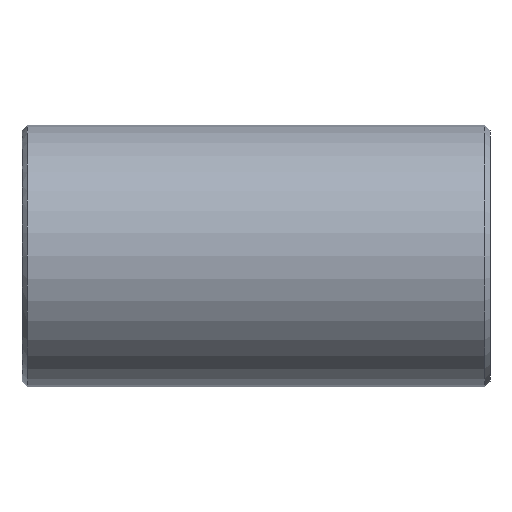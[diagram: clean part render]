
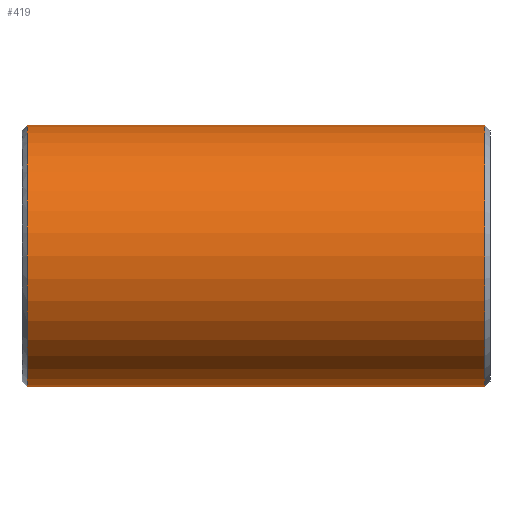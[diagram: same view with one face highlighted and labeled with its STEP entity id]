
A CAD part, front view. The second image highlights one B-rep face of the part: STEP entity #419.
In plain terms, the highlighted cylindrical face has radius 24 mm (diameter 48 mm), a partial arc.
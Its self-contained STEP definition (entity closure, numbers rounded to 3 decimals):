
#231=CARTESIAN_POINT('Vertex',(1.,0.,-24.)) ;
#238=CARTESIAN_POINT('Vertex',(1.,0.,24.)) ;
#267=CARTESIAN_POINT('Axis2P3D Location',(1.,0.,0.)) ;
#271=CARTESIAN_POINT('Vertex',(1.,-24.,0.)) ;
#274=CARTESIAN_POINT('Axis2P3D Location',(1.,0.,0.)) ;
#359=CARTESIAN_POINT('Line Origine',(86.,0.,24.)) ;
#363=CARTESIAN_POINT('Vertex',(85.,0.,24.)) ;
#377=CARTESIAN_POINT('Vertex',(85.,0.,-24.)) ;
#380=CARTESIAN_POINT('Line Origine',(86.,0.,-24.)) ;
#394=CARTESIAN_POINT('Axis2P3D Location',(86.,0.,0.)) ;
#399=CARTESIAN_POINT('Axis2P3D Location',(85.,0.,0.)) ;
#403=CARTESIAN_POINT('Vertex',(85.,-24.,0.)) ;
#406=CARTESIAN_POINT('Axis2P3D Location',(85.,0.,0.)) ;
#268=DIRECTION('Axis2P3D Direction',(1.,0.,-0.)) ;
#275=DIRECTION('Axis2P3D Direction',(1.,0.,-0.)) ;
#360=DIRECTION('Vector Direction',(-1.,0.,0.)) ;
#381=DIRECTION('Vector Direction',(-1.,0.,0.)) ;
#395=DIRECTION('Axis2P3D Direction',(-1.,-0.,-0.)) ;
#396=DIRECTION('Axis2P3D XDirection',(0.,0.,-1.)) ;
#400=DIRECTION('Axis2P3D Direction',(-1.,-0.,-0.)) ;
#407=DIRECTION('Axis2P3D Direction',(-1.,-0.,-0.)) ;
#269=AXIS2_PLACEMENT_3D('Circle Axis2P3D',#267,#268,$) ;
#276=AXIS2_PLACEMENT_3D('Circle Axis2P3D',#274,#275,$) ;
#397=AXIS2_PLACEMENT_3D('Cylinder Axis2P3D',#394,#395,#396) ;
#401=AXIS2_PLACEMENT_3D('Circle Axis2P3D',#399,#400,$) ;
#408=AXIS2_PLACEMENT_3D('Circle Axis2P3D',#406,#407,$) ;
#412=ORIENTED_EDGE('',*,*,#384,.T.) ;
#413=ORIENTED_EDGE('',*,*,#405,.F.) ;
#414=ORIENTED_EDGE('',*,*,#410,.F.) ;
#415=ORIENTED_EDGE('',*,*,#365,.T.) ;
#416=ORIENTED_EDGE('',*,*,#278,.T.) ;
#417=ORIENTED_EDGE('',*,*,#273,.T.) ;
#361=VECTOR('Line Direction',#360,1.) ;
#382=VECTOR('Line Direction',#381,1.) ;
#419=ADVANCED_FACE('352-40X86',(#418),#398,.T.) ;
#270=CIRCLE('generated circle',#269,24.) ;
#277=CIRCLE('generated circle',#276,24.) ;
#402=CIRCLE('generated circle',#401,24.) ;
#409=CIRCLE('generated circle',#408,24.) ;
#398=CYLINDRICAL_SURFACE('generated cylinder',#397,24.) ;
#273=EDGE_CURVE('',#272,#232,#270,.T.) ;
#278=EDGE_CURVE('',#239,#272,#277,.T.) ;
#365=EDGE_CURVE('',#364,#239,#362,.T.) ;
#384=EDGE_CURVE('',#232,#378,#383,.F.) ;
#405=EDGE_CURVE('',#404,#378,#402,.F.) ;
#410=EDGE_CURVE('',#364,#404,#409,.F.) ;
#411=EDGE_LOOP('',(#412,#413,#414,#415,#416,#417)) ;
#418=FACE_OUTER_BOUND('',#411,.T.) ;
#362=LINE('Line',#359,#361) ;
#383=LINE('Line',#380,#382) ;
#232=VERTEX_POINT('',#231) ;
#239=VERTEX_POINT('',#238) ;
#272=VERTEX_POINT('',#271) ;
#364=VERTEX_POINT('',#363) ;
#378=VERTEX_POINT('',#377) ;
#404=VERTEX_POINT('',#403) ;
